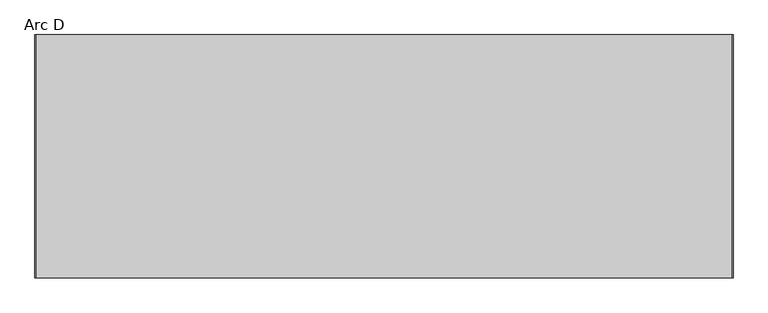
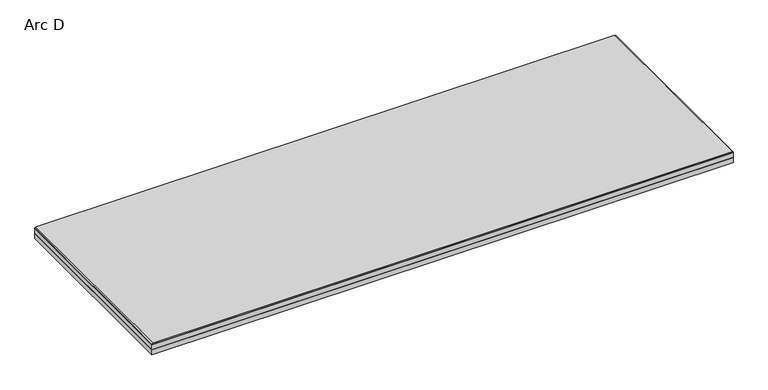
"""IFC4 building model written with IfcOpenShell, lengths in millimetres: proxy geometry, FilzFelt_Arc : Arc D."""

from ifc_helpers import new_model, si_unit, frame, origin, origin_with_axes, place, context, project, spatial, polyline, outline, extrude, source, transform, mapped, element, save


def arc_d_d31faa50(model_context):
    return source(origin(), model_context, "Body", "SweptSolid", [
        extrude(outline(polyline([(546.1, -190.5), (-546.1, -190.5), (-546.1, 190.5), (546.1, 190.5), (546.1, -190.5)])), origin_with_axes(), (0.0, 0.0, 1.0), 10.0),
        extrude(outline(polyline([(546.1, -190.5), (-546.1, -190.5), (-546.1, 190.5), (546.1, 190.5), (546.1, -190.5)])), frame((0.0, 0.0, 10.0), z_axis=(0.0, 0.0, 1.0), x_axis=(1.0, 0.0, 0.0)), (0.0, 0.0, 1.0), 10.0),
        extrude(outline(polyline([(20.0, 546.1), (21.0, 546.1), (23.0, 544.1), (23.0, -544.1), (21.0, -546.1), (20.0, -546.1), (20.0, 546.1)])), frame((0.0, -190.5, 0.0), z_axis=(0.0, 1.0, 0.0), x_axis=(0.0, 0.0, 1.0)), (0.0, 0.0, 1.0), 381.0),
    ])


if __name__ == "__main__":
    model = new_model("IFC4")
    model_context = context("Model", 3, world=origin())
    ifc_project = project(units=[si_unit("LENGTHUNIT", "METRE", prefix="MILLI")], contexts=[model_context])
    site = spatial("IfcSite", under=ifc_project)
    building = spatial("IfcBuilding", under=site)
    placement = place(None, origin())
    arc_d_shape = arc_d_d31faa50(model_context)
    element("IfcBuildingElementProxy", 1, Name="FilzFelt_Arc : Arc D", ObjectType="FilzFelt_Arc : Arc D", at=placement, inside=building, context=model_context, shape_type="MappedRepresentation", body=[
        mapped(arc_d_shape, transform((0.0, 0.0, 0.0), x_axis=(1.0, 0.0, 0.0), y_axis=(0.0, 1.0, 0.0), z_axis=(0.0, 0.0, 1.0))),
    ])
    save(model, "model.ifc")
